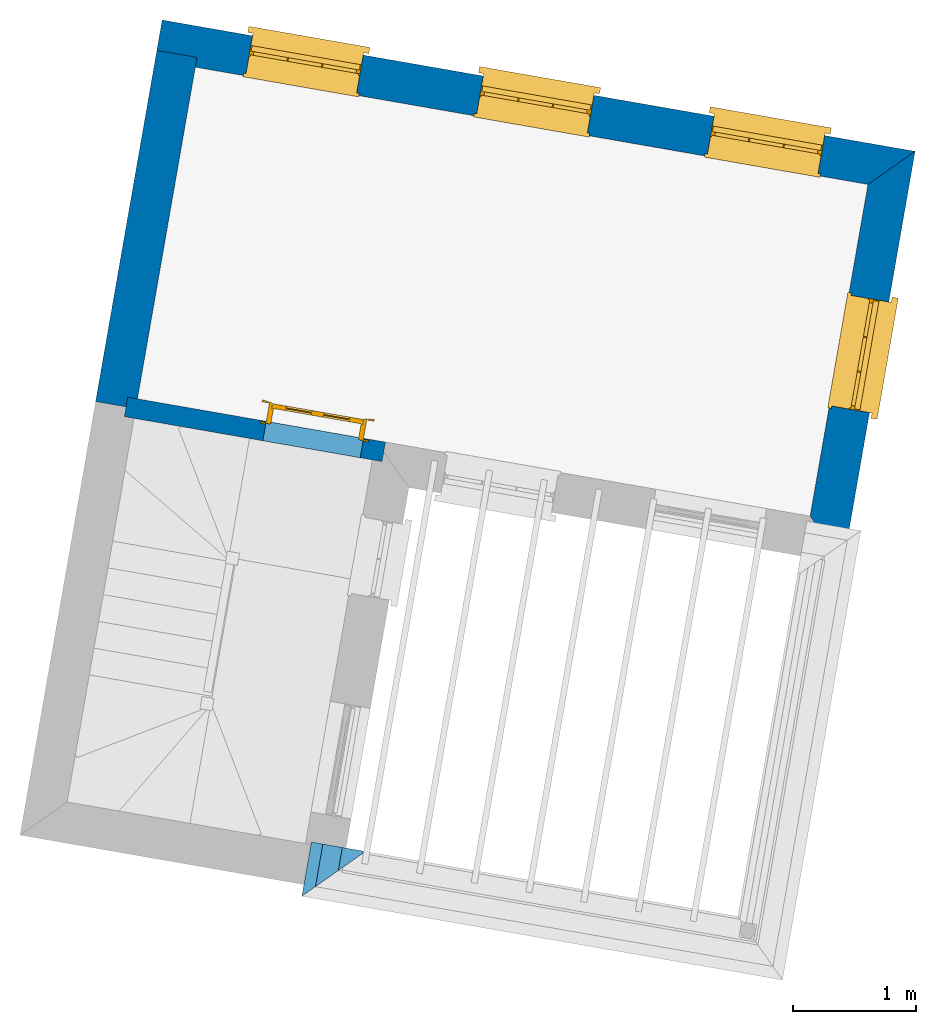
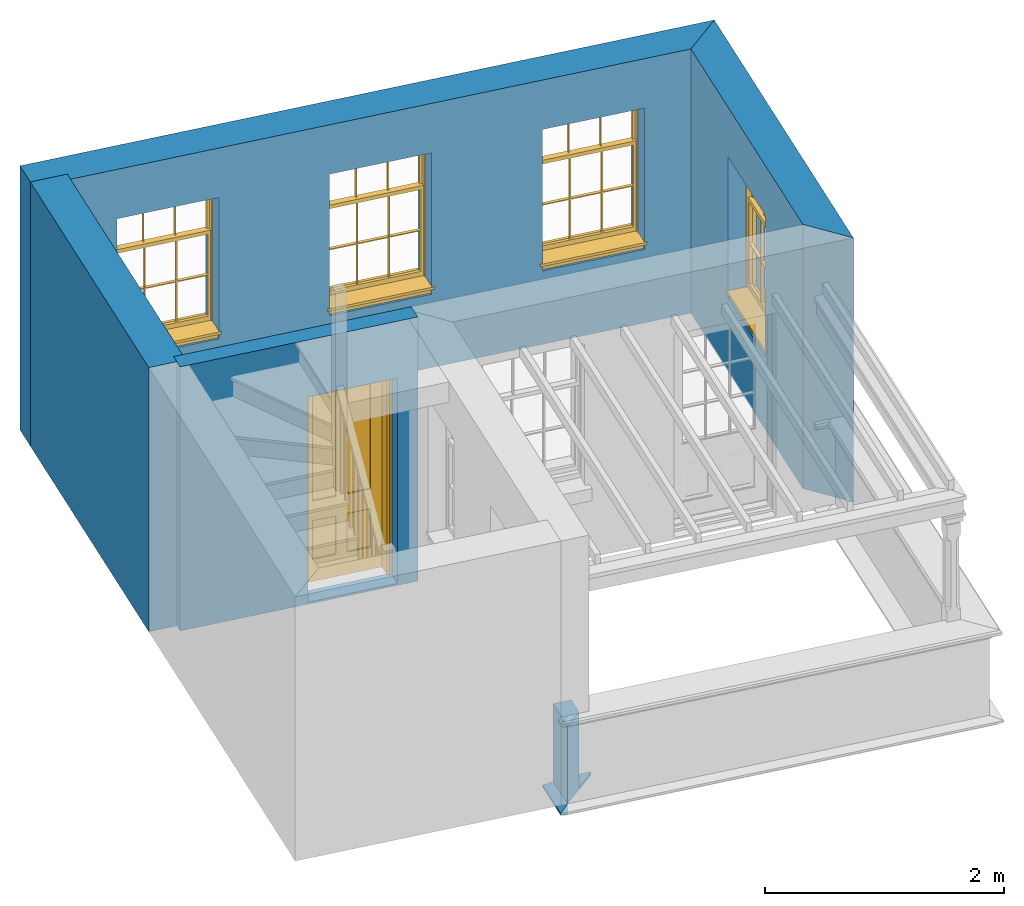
# One storey, part 4 of 6: 6 walls, 4 windows, 1 door, 5 openings.
"""IFC4 building model written with IfcOpenShell, lengths in metres."""

from ifc_helpers import new_model, si_unit, frame, origin, origin_with_axes, place, context, subcontext, project, spatial, polyline, outline, extrude, clip, halfspace, faceted_brep, source, transform, mapped, material, layer, layer_set, layer_usage, material_profile, profile_set, profile_usage, type_object, type_shapes, element, fill, save


model = new_model("IFC4")

# Units and contexts
model_context = context("Model", 3, world=origin_with_axes())
body_context = subcontext(model_context, "Body", "Model", "MODEL_VIEW")
ifc_project = project(units=[si_unit("PLANEANGLEUNIT", "RADIAN"), si_unit("MASSUNIT", "GRAM", prefix="KILO"), si_unit("FORCEUNIT", "NEWTON", prefix="KILO"), si_unit("LENGTHUNIT", "METRE"), si_unit("AREAUNIT", "SQUARE_METRE"), si_unit("VOLUMEUNIT", "CUBIC_METRE")], contexts=[model_context, model_context])

# Sites, building, storey
site_1_placement = place(None, origin_with_axes())
site_1 = spatial("IfcSite", under=ifc_project, at=site_1_placement, Name="Tamar")
site_2_placement = place(site_1_placement, origin_with_axes())
site_2 = spatial("IfcSite", under=site_1, at=site_2_placement, Name="Site plot-27", CompositionType="ELEMENT")
building_placement = place(None, origin_with_axes())
building = spatial("IfcBuilding", under=site_2, at=building_placement, Name="Building plot-27", CompositionType="ELEMENT")
storey_placement = place(None, frame((0.0, 0.0, 29.3), z_axis=(0.0, 0.0, 1.0), x_axis=(1.0, 0.0, 0.0)))
storey = spatial("IfcBuildingStorey", under=building, at=storey_placement, Name="plot-27 1", CompositionType="ELEMENT", Elevation=29.3)

# Wall, opening, window
ifc_material_1 = material(Name="Masonry")
ifc_layer_1 = layer(ifc_material_1, 0.33, ventilated=False)
ifc_layer_set_1 = layer_set([ifc_layer_1], Name="exterior_0.08_0.25")
ifc_layer_usage_1 = layer_usage(ifc_layer_set_1, "AXIS2", "POSITIVE", -0.25)
wall_type_1 = type_object("IfcWallType", Name="exterior_0.08_0.25", PredefinedType="SOLIDWALL", material=ifc_layer_set_1)
wall_1_placement = place(storey_placement, frame((297.19996948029, 271.518143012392, 0.0), z_axis=(0.0, 0.0, 1.0), x_axis=(0.171788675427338, 0.985133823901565, 0.0)))
wall_1 = element("IfcWall", 1, at=wall_1_placement, inside=storey, type_object=wall_type_1, material=ifc_layer_usage_1, Name="exterior", context=body_context, shape_type="SweptSolid", body=[
    extrude(outline(polyline([(0.0800000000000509, 0.0799999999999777), (-0.250000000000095, -0.250000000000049), (3.13690107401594, -0.250000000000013), (2.80690107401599, 0.0799999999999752), (0.0800000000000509, 0.0799999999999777)])), origin_with_axes(), (0.0, 0.0, 1.0), 2.7),
])
opening_1_placement = place(wall_1_placement, frame((0.98845053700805, 0.0, 0.75)))
opening_1 = element("IfcOpeningElement", 2, at=opening_1_placement, cuts=wall_1, Name="My Opening", ObjectType="Opening", context=body_context, shape_type="SweptSolid", body=[
    extrude(outline(polyline([(0.0, -0.269999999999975), (0.909999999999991, -0.269999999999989), (0.910000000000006, 1.09999999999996), (1.50990331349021e-14, 1.09999999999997), (0.0, -0.269999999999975)])), origin_with_axes(), (0.0, 0.0, 1.0), 1.445),
])
window_type = type_object("IfcWindowType", Name="sash_shorter", PartitioningType="DOUBLE_PANEL_HORIZONTAL", PredefinedType="NOTDEFINED")
shared_shape_1 = source(origin(), body_context, "Body", "Brep", [
    faceted_brep([(0.876875, 0.145, 0.999097), (0.876875, 0.145, 1.411875), (0.9, 0.145, 1.435), (0.033125, 0.145, 1.411875), (0.033125, 0.145, 0.999097), (0.01, 0.145, 1.435), (0.033125, 0.115, 1.411875), (0.01, 0.115, 1.435), (0.033125, 0.115, 0.999097), (0.876875, 0.115, 1.411875), (0.876875, 0.115, 0.999097), (0.9, 0.115, 1.435), (0.033125, 0.145, 0.960972), (0.01, 0.145, 0.960972), (0.033125, 0.145, 0.548195), (0.876875, 0.145, 0.960972), (0.876875, 0.145, 0.548195), (0.9, 0.145, 0.960972), (0.876875, 0.145, 0.538195), (0.876875, 0.145, 0.125417), (0.9, 0.145, 0.077167), (0.033125, 0.145, 0.125417), (0.033125, 0.145, 0.538195), (0.01, 0.145, 0.077167), (0.9, 0.115, 0.960972), (0.01, 0.115, 0.960972), (-0.0425, 0.0, 0.01), (-0.0425, -0.05, 0.001667), (0.0, 0.0, 0.01), (0.9525, 0.0, 0.01), (0.91, 0.0, 0.01), (0.9525, -0.05, 0.001667), (-0.02, 0.33, 0.077167), (0.0, 0.33, 0.077167), (-0.02, 0.36, 0.077167), (0.0, 0.19, 0.077167), (0.01, 0.19, 0.077167), (0.91, 0.19, 0.077167), (0.91, 0.33, 0.077167), (0.9, 0.19, 0.077167), (0.93, 0.33, 0.077167), (0.93, 0.36, 0.077167), (0.01, 0.145, 0.999097), (0.01, 0.175, 0.999097), (0.9, 0.145, 0.999097), (0.9, 0.175, 0.999097), (0.876875, 0.175, 0.125417), (0.876875, 0.175, 0.538195), (0.9, 0.175, 0.077167), (0.876875, 0.175, 0.548195), (0.876875, 0.175, 0.960972), (0.033125, 0.175, 0.125417), (0.01, 0.175, 0.077167), (0.033125, 0.175, 0.538195), (0.033125, 0.175, 0.960972), (0.033125, 0.175, 0.548195), (-0.02, 0.33, 0.052167), (-0.02, 0.36, 0.052167), (0.93, 0.36, 0.052167), (0.93, 0.33, 0.052167), (0.91, 0.33, 0.052167), (0.0, 0.33, 0.052167), (0.91, 0.1, 0.026667), (0.0, 0.1, 0.026667), (-0.0425, -0.05, -0.123333), (0.9525, -0.05, -0.123333), (-0.0425, 0.0, -0.123333), (0.9525, 0.0, -0.123333), (0.01, 0.19, 1.435), (0.9, 0.19, 1.435), (0.0, 0.19, 1.445), (0.91, 0.19, 1.445), (0.01, 0.1, 0.077167), (0.9, 0.1, 0.077167), (0.592292, 0.145, 0.125417), (0.592292, 0.175, 0.125417), (0.317708, 0.175, 0.125417), (0.317708, 0.145, 0.125417), (0.592292, 0.145, 0.548195), (0.317708, 0.145, 0.548195), (0.317708, 0.145, 0.538195), (0.592292, 0.145, 0.538195), (0.592292, 0.175, 0.548195), (0.317708, 0.175, 0.548195), (0.602292, 0.175, 0.548195), (0.602292, 0.145, 0.548195), (0.317708, 0.175, 0.538195), (0.307708, 0.175, 0.125417), (0.307708, 0.175, 0.538195), (0.602292, 0.175, 0.538195), (0.602292, 0.175, 0.125417), (0.592292, 0.175, 0.538195), (0.307708, 0.175, 0.548195), (0.317708, 0.175, 0.960972), (0.307708, 0.175, 0.960972), (0.602292, 0.175, 0.960972), (0.592292, 0.175, 0.960972), (0.307708, 0.145, 0.538195), (0.307708, 0.145, 0.125417), (0.307708, 0.145, 0.548195), (0.307708, 0.145, 0.960972), (0.592292, 0.145, 0.960972), (0.317708, 0.145, 0.960972), (0.602292, 0.145, 0.960972), (0.602292, 0.145, 0.538195), (0.602292, 0.145, 0.125417), (0.317708, 0.115, 1.411875), (0.307708, 0.115, 1.411875), (0.307708, 0.115, 0.999097), (0.317708, 0.115, 0.999097), (0.602292, 0.115, 1.411875), (0.592292, 0.115, 1.411875), (0.592292, 0.115, 0.999097), (0.602292, 0.115, 0.999097), (0.317708, 0.145, 0.999097), (0.307708, 0.145, 0.999097), (0.307708, 0.145, 1.411875), (0.317708, 0.145, 1.411875), (0.602292, 0.145, 0.999097), (0.592292, 0.145, 0.999097), (0.592292, 0.145, 1.411875), (0.602292, 0.145, 1.411875), (0.91, 0.1, 1.445), (0.9, 0.1, 1.435), (0.01, 0.1, 1.435), (0.0, 0.1, 1.445), (0.91, 0.0, 0.0), (0.0, 0.0, 0.0), (0.91, 0.33, 0.0), (0.0, 0.33, 0.0)], [[[0, 1, 2]], [[3, 4, 5]], [[6, 7, 8]], [[9, 10, 11]], [[12, 13, 14]], [[15, 16, 17]], [[18, 19, 20]], [[21, 22, 23]], [[24, 15, 17]], [[13, 12, 25]], [[26, 27, 28]], [[29, 30, 31]], [[32, 33, 34]], [[35, 36, 33]], [[37, 38, 39]], [[40, 41, 38]], [[42, 4, 43]], [[44, 45, 0]], [[46, 47, 48]], [[49, 50, 45]], [[51, 52, 53]], [[54, 55, 43]], [[38, 33, 36, 39]], [[41, 34, 33, 38]], [[56, 32, 34, 57]], [[57, 34, 41, 58]], [[58, 41, 40, 59]], [[57, 58, 60, 61]], [[52, 48, 39, 36]], [[62, 63, 28, 30]], [[27, 31, 30, 28]], [[27, 64, 65, 31]], [[66, 67, 65, 64]], [[2, 5, 68, 69]], [[68, 70, 71, 69]], [[20, 23, 72, 73]], [[73, 72, 63, 62]], [[74, 75, 76, 77]], [[78, 79, 80, 81]], [[78, 82, 83, 79]], [[16, 49, 84, 85]], [[86, 76, 87, 88]], [[89, 90, 75, 91]], [[92, 88, 53, 55]], [[82, 91, 86, 83]], [[93, 83, 92, 94]], [[95, 84, 82, 96]], [[89, 84, 49, 47]], [[97, 88, 87, 98]], [[22, 53, 88, 97]], [[81, 91, 75, 74]], [[80, 86, 91, 81]], [[77, 76, 86, 80]], [[99, 92, 55, 14]], [[100, 94, 92, 99]], [[101, 96, 82, 78]], [[79, 83, 93, 102]], [[85, 84, 95, 103]], [[104, 89, 47, 18]], [[105, 90, 89, 104]], [[104, 18, 16, 85]], [[80, 97, 98, 77]], [[104, 81, 74, 105]], [[103, 101, 78, 85]], [[99, 14, 22, 97]], [[102, 100, 99, 79]], [[106, 107, 108, 109]], [[110, 111, 112, 113]], [[114, 115, 116, 117]], [[118, 119, 120, 121]], [[107, 116, 115, 108]], [[111, 120, 119, 112]], [[109, 114, 117, 106]], [[113, 118, 121, 110]], [[85, 78, 81, 104]], [[84, 89, 91, 82]], [[83, 86, 88, 92]], [[79, 99, 97, 80]], [[109, 112, 119, 114]], [[102, 93, 96, 101]], [[106, 117, 120, 111]], [[98, 87, 51, 21]], [[6, 3, 116, 107]], [[110, 121, 1, 9]], [[19, 46, 90, 105]], [[26, 66, 64, 27]], [[29, 31, 65, 67]], [[25, 24, 112, 109]], [[11, 7, 106, 111]], [[75, 48, 52, 76]], [[43, 45, 96, 93]], [[45, 43, 114, 119]], [[5, 2, 120, 117]], [[24, 25, 102, 101]], [[42, 5, 4]], [[2, 44, 0]], [[49, 45, 48, 47]], [[52, 43, 55, 53]], [[14, 13, 23, 22]], [[20, 17, 16, 18]], [[24, 11, 10]], [[25, 8, 7]], [[8, 4, 3, 6]], [[9, 1, 0, 10]], [[15, 50, 49, 16]], [[18, 47, 46, 19]], [[21, 51, 53, 22]], [[14, 55, 54, 12]], [[44, 2, 69, 45]], [[68, 5, 42, 43]], [[36, 35, 70, 68]], [[39, 69, 71, 37]], [[62, 122, 123, 73]], [[63, 72, 124, 125]], [[8, 108, 115, 4]], [[113, 10, 0, 118]], [[94, 100, 12, 54]], [[17, 20, 73, 24]], [[72, 23, 13, 25]], [[52, 36, 68, 43]], [[69, 39, 48, 45]], [[11, 24, 73, 123]], [[7, 124, 72, 25]], [[23, 77, 98]], [[98, 21, 23]], [[105, 74, 20]], [[20, 19, 105]], [[20, 74, 77, 23]], [[113, 112, 24]], [[24, 10, 113]], [[25, 109, 108]], [[108, 8, 25]], [[110, 9, 11]], [[11, 111, 110]], [[7, 6, 107]], [[107, 106, 7]], [[5, 117, 116]], [[116, 3, 5]], [[121, 120, 2]], [[2, 1, 121]], [[11, 123, 124, 7]], [[122, 125, 124, 123]], [[43, 93, 94]], [[94, 54, 43]], [[96, 45, 95]], [[50, 95, 45]], [[15, 103, 95, 50]], [[48, 75, 90]], [[90, 46, 48]], [[87, 76, 52]], [[52, 51, 87]], [[103, 15, 24]], [[24, 101, 103]], [[100, 102, 25]], [[25, 12, 100]], [[115, 114, 43]], [[43, 4, 115]], [[118, 0, 45]], [[45, 119, 118]], [[71, 70, 125, 122]], [[70, 35, 63, 125]], [[122, 62, 37, 71]], [[126, 67, 66, 127]], [[60, 58, 59]], [[38, 60, 59, 40]], [[61, 56, 57]], [[32, 56, 61, 33]], [[61, 60, 128, 129]], [[62, 60, 38, 37]], [[126, 128, 60, 62]], [[33, 61, 63, 35]], [[61, 129, 127, 63]], [[128, 126, 127, 129]], [[28, 127, 66, 26]], [[63, 127, 28]], [[29, 67, 126, 30]], [[30, 126, 62]]]),
])
type_shapes(window_type, [shared_shape_1])
window_1_placement = place(storey_placement, frame((297.635760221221, 272.445516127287, 0.75), z_axis=(0.0, 0.0, 1.0), x_axis=(0.15632769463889, 0.896471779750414, 0.0)))
window_1 = element("IfcWindow", 3, at=window_1_placement, inside=storey, type_object=window_type, Name="bedroom outside window", OverallHeight=1.445, OverallWidth=0.91, context=body_context, shape_type="MappedRepresentation", body=[
    mapped(shared_shape_1, transform((0.0, 0.0, 0.0), scale=1.0)),
])
fill(opening_1, window_1)

# Wall, openings, windows
wall_2_placement = place(storey_placement, frame((297.695906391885, 274.362126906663, 0.0), z_axis=(0.0, 0.0, 1.0), x_axis=(-0.985133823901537, 0.171788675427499, 0.0)))
wall_2 = element("IfcWall", 4, at=wall_2_placement, inside=storey, type_object=wall_type_1, material=ifc_layer_usage_1, Name="exterior", context=body_context, shape_type="SweptSolid", body=[
    extrude(outline(polyline([(0.0799999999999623, 0.0800000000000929), (-0.249999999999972, -0.249999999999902), (5.93968341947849, -0.25000000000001), (5.9396834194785, 0.0800000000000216), (0.0799999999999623, 0.0800000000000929)])), origin_with_axes(), (0.0, 0.0, 1.0), 2.7),
])
opening_2_placement = place(wall_2_placement, frame((0.493280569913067, 0.0, 0.75)))
opening_2 = element("IfcOpeningElement", 5, at=opening_2_placement, cuts=wall_2, Name="My Opening", ObjectType="Opening", context=body_context, shape_type="SweptSolid", body=[
    extrude(outline(polyline([(0.0, -0.269999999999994), (0.910000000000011, -0.269999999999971), (0.909999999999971, 1.10000000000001), (-4.00790511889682e-14, 1.09999999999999), (0.0, -0.269999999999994)])), origin_with_axes(), (0.0, 0.0, 1.0), 1.445),
])
opening_3_placement = place(wall_2_placement, frame((2.38984170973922, 0.0, 0.75)))
opening_3 = element("IfcOpeningElement", 6, at=opening_3_placement, cuts=wall_2, Name="My Opening", ObjectType="Opening", context=body_context, shape_type="SweptSolid", body=[
    extrude(outline(polyline([(0.0, -0.269999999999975), (0.91000000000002, -0.270000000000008), (0.90999999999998, 1.09999999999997), (-3.99680288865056e-14, 1.1), (0.0, -0.269999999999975)])), origin_with_axes(), (0.0, 0.0, 1.0), 1.445),
])
opening_4_placement = place(wall_2_placement, frame((4.28640284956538, 0.0, 0.75)))
opening_4 = element("IfcOpeningElement", 7, at=opening_4_placement, cuts=wall_2, Name="My Opening", ObjectType="Opening", context=body_context, shape_type="SweptSolid", body=[
    extrude(outline(polyline([(0.0, -0.270000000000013), (0.910000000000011, -0.26999999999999), (0.909999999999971, 1.09999999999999), (-3.99680288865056e-14, 1.09999999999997), (0.0, -0.270000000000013)])), origin_with_axes(), (0.0, 0.0, 1.0), 1.445),
])
window_2_placement = place(storey_placement, frame((297.256341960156, 274.712853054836, 0.75), z_axis=(0.0, 0.0, 1.0), x_axis=(-0.896471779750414, 0.156327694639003, 0.0)))
window_2 = element("IfcWindow", 8, at=window_2_placement, inside=storey, type_object=window_type, Name="bedroom outside window", OverallHeight=1.445, OverallWidth=0.91, context=body_context, shape_type="MappedRepresentation", body=[
    mapped(shared_shape_1, transform((0.0, 0.0, 0.0), scale=1.0)),
])
fill(opening_2, window_2)
window_3_placement = place(storey_placement, frame((295.387975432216, 275.038660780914, 0.75), z_axis=(0.0, 0.0, 1.0), x_axis=(-0.896471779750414, 0.15632769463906, 0.0)))
window_3 = element("IfcWindow", 9, at=window_3_placement, inside=storey, type_object=window_type, Name="bedroom outside window", OverallHeight=1.445, OverallWidth=0.91, context=body_context, shape_type="MappedRepresentation", body=[
    mapped(shared_shape_1, transform((0.0, 0.0, 0.0), scale=1.0)),
])
fill(opening_3, window_3)
window_4_placement = place(storey_placement, frame((293.519608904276, 275.364468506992, 0.75), z_axis=(0.0, 0.0, 1.0), x_axis=(-0.896471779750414, 0.156327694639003, 0.0)))
window_4 = element("IfcWindow", 10, at=window_4_placement, inside=storey, type_object=window_type, Name="bedroom outside window", OverallHeight=1.445, OverallWidth=0.91, context=body_context, shape_type="MappedRepresentation", body=[
    mapped(shared_shape_1, transform((0.0, 0.0, 0.0), scale=1.0)),
])
fill(opening_4, window_4)

# Wall
ifc_material_2 = material(Name="Masonry")
ifc_layer_2 = layer(ifc_material_2, 0.33, ventilated=False)
ifc_layer_set_2 = layer_set([ifc_layer_2], Name="party_0.08_0.25")
ifc_layer_usage_2 = layer_usage(ifc_layer_set_2, "AXIS2", "POSITIVE", -0.25)
wall_type_2 = type_object("IfcWallType", Name="party_0.08_0.25", PredefinedType="SOLIDWALL", material=ifc_layer_set_2)
wall_3_placement = place(storey_placement, frame((292.090806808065, 275.339550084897, 0.0), z_axis=(0.0, 0.0, 1.0), x_axis=(-0.171788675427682, -0.985133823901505, 0.0)))
element("IfcWall", 11, at=wall_3_placement, inside=storey, type_object=wall_type_2, material=ifc_layer_usage_2, Name="party", context=body_context, shape_type="SweptSolid", body=[
    extrude(outline(polyline([(8.653925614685e-15, 0.0800000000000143), (-1.53900414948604e-15, -0.250000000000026), (2.88690107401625, -0.250000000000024), (2.88690107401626, 0.0800000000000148), (8.653925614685e-15, 0.0800000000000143)])), origin_with_axes(), (0.0, 0.0, 1.0), 2.7),
])

# Wall, opening, door
ifc_material_3 = material(Name="Masonry")
ifc_layer_3 = layer(ifc_material_3, 0.16, ventilated=False)
ifc_layer_set_3 = layer_set([ifc_layer_3], Name="interior_0.08_0.08")
ifc_layer_usage_3 = layer_usage(ifc_layer_set_3, "AXIS2", "POSITIVE", -0.08)
wall_type_3 = type_object("IfcWallType", Name="interior_0.08_0.08", PredefinedType="SOLIDWALL", material=ifc_layer_set_3)
wall_4_placement = place(storey_placement, frame((291.594869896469, 272.495566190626, 0.0), z_axis=(0.0, 0.0, 1.0), x_axis=(0.985133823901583, -0.17178867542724, 0.0)))
wall_4 = element("IfcWall", 12, at=wall_4_placement, inside=storey, type_object=wall_type_3, material=ifc_layer_usage_3, Name="interior", context=body_context, shape_type="SweptSolid", body=[
    extrude(outline(polyline([(-1.14348394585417e-14, 0.0800000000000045), (1.14250422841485e-14, -0.0800000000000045), (2.11883518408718, -0.0800000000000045), (2.11883518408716, 0.0800000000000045), (-1.14348394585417e-14, 0.0800000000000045)])), origin_with_axes(), (0.0, 0.0, 1.0), 2.7),
])
opening_5_placement = place(wall_4_placement, frame((1.13883518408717, 0.0, 0.0199999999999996)))
opening_5 = element("IfcOpeningElement", 13, at=opening_5_placement, cuts=wall_4, Name="My Opening", ObjectType="Opening", context=body_context, shape_type="SweptSolid", body=[
    extrude(outline(polyline([(0.0, -0.0999999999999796), (0.800000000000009, -0.099999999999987), (0.800000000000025, 1.1), (1.59872115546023e-14, 1.10000000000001), (0.0, -0.0999999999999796)])), origin_with_axes(), (0.0, 0.0, 1.0), 2.1),
])
door_type = type_object("IfcDoorType", Name="door_inside", OperationType="SINGLE_SWING_LEFT", PredefinedType="NOTDEFINED")
shared_shape_2 = source(origin(), body_context, "Body", "Brep", [
    faceted_brep([(0.773, 0.33, 1.895), (0.66, 0.33, 1.895), (0.66, 0.33, 2.073), (0.773, 0.33, 2.073), (0.773, 0.33, 0.82), (0.66, 0.33, 0.82), (0.45, 0.33, 1.895), (0.45, 0.33, 2.073), (0.773, 0.33, 0.62), (0.66, 0.33, 0.62), (0.66, 0.315, 0.82), (0.66, 0.315, 1.895), (0.45, 0.315, 1.895), (0.35, 0.33, 1.895), (0.35, 0.33, 2.073), (0.773, 0.33, 0.225), (0.66, 0.33, 0.225), (0.45, 0.33, 0.62), (0.45, 0.33, 0.82), (0.45, 0.315, 0.82), (0.35, 0.33, 0.82), (0.14, 0.33, 2.073), (0.14, 0.33, 1.895), (0.773, 0.33, 0.0), (0.66, 0.33, 0.0), (0.66, 0.315, 0.225), (0.66, 0.315, 0.62), (0.45, 0.315, 0.62), (0.35, 0.33, 0.62), (0.35, 0.315, 0.82), (0.35, 0.315, 1.895), (0.14, 0.315, 1.895), (0.027, 0.33, 2.073), (0.027, 0.33, 1.895), (0.773, 0.292, 0.0), (0.66, 0.292, 0.0), (0.45, 0.33, 0.0), (0.45, 0.33, 0.225), (0.45, 0.315, 0.225), (0.35, 0.33, 0.225), (0.14, 0.33, 0.82), (0.14, 0.33, 0.62), (0.14, 0.315, 0.82), (0.027, 0.33, 0.82), (0.773, 0.292, 0.225), (0.66, 0.292, 0.225), (0.45, 0.292, 0.0), (0.35, 0.33, 0.0), (0.35, 0.315, 0.225), (0.35, 0.315, 0.62), (0.14, 0.315, 0.62), (0.027, 0.33, 0.62), (0.773, 0.292, 0.62), (0.66, 0.292, 0.62), (0.45, 0.292, 0.225), (0.35, 0.292, 0.0), (0.14, 0.33, 0.225), (0.14, 0.33, 0.0), (0.14, 0.315, 0.225), (0.027, 0.33, 0.225), (0.773, 0.292, 0.82), (0.66, 0.292, 0.82), (0.66, 0.307, 0.62), (0.66, 0.307, 0.225), (0.45, 0.307, 0.225), (0.35, 0.292, 0.225), (0.14, 0.292, 0.0), (0.027, 0.33, 0.0), (0.773, 0.292, 1.895), (0.66, 0.292, 1.895), (0.45, 0.292, 0.62), (0.45, 0.292, 0.82), (0.45, 0.307, 0.62), (0.35, 0.292, 0.62), (0.14, 0.292, 0.225), (0.027, 0.292, 0.0), (0.773, 0.292, 2.073), (0.66, 0.292, 2.073), (0.66, 0.307, 1.895), (0.66, 0.307, 0.82), (0.45, 0.307, 0.82), (0.35, 0.292, 0.82), (0.35, 0.307, 0.62), (0.35, 0.307, 0.225), (0.14, 0.307, 0.225), (0.027, 0.292, 0.225), (0.45, 0.292, 1.895), (0.45, 0.292, 2.073), (0.45, 0.307, 1.895), (0.35, 0.292, 1.895), (0.14, 0.292, 0.82), (0.14, 0.292, 0.62), (0.14, 0.307, 0.62), (0.027, 0.292, 0.62), (0.35, 0.292, 2.073), (0.35, 0.307, 1.895), (0.35, 0.307, 0.82), (0.14, 0.307, 0.82), (0.027, 0.292, 0.82), (0.14, 0.292, 2.073), (0.14, 0.292, 1.895), (0.14, 0.307, 1.895), (0.027, 0.292, 1.895), (0.027, 0.292, 2.073), (0.02, 0.335, 0.0), (0.005, 0.34, 0.0), (0.005, 0.34, 2.095), (0.02, 0.335, 2.08), (0.02, 0.33, 0.0), (0.0, 0.335, 0.0), (0.0, 0.335, 2.1), (0.795, 0.34, 2.095), (0.78, 0.335, 2.08), (0.02, 0.33, 2.08), (0.0, 0.33, 0.0), (-0.032, 0.345, 0.0), (-0.032, 0.345, 2.132), (0.8, 0.335, 2.1), (0.795, 0.34, 0.0), (0.78, 0.335, 0.0), (0.78, 0.33, 2.08), (0.04, 0.29, 0.0), (0.025, 0.29, 0.0), (0.025, 0.29, 2.075), (0.04, 0.29, 2.06), (-0.04, 0.34, 0.0), (-0.04, 0.34, 2.14), (0.832, 0.345, 2.132), (0.8, 0.335, 0.0), (0.78, 0.33, 0.0), (0.8, 0.33, 0.0), (0.86, 0.33, 0.0), (0.86, 0.33, 2.16), (0.8, 0.33, 2.1), (-0.06, 0.33, 2.16), (0.0, 0.33, 2.1), (-0.06, 0.33, 0.0), (-0.04, 0.345, 0.0), (-0.04, 0.345, 2.14), (0.84, 0.34, 2.14), (0.832, 0.345, 0.0), (0.84, 0.34, 0.0), (0.86, 0.345, 0.0), (0.86, 0.345, 2.16), (-0.06, 0.345, 2.16), (-0.06, 0.345, 0.0), (0.84, 0.345, 0.0), (0.84, 0.345, 2.14), (-0.025, 0.155, 0.0), (-0.025, 0.16, 0.0), (-0.025, 0.16, 2.125), (-0.025, 0.155, 2.125), (-0.017, 0.155, 0.0), (-0.017, 0.155, 2.117), (0.825, 0.16, 2.125), (0.825, 0.155, 2.125), (0.825, 0.155, 0.0), (0.845, 0.155, 0.0), (-0.045, 0.155, 2.145), (-0.045, 0.155, 0.0), (0.845, 0.155, 2.145), (0.015, 0.165, 0.0), (0.015, 0.165, 2.085), (0.817, 0.155, 2.117), (0.825, 0.16, 0.0), (0.845, 0.17, 0.0), (0.845, 0.17, 2.145), (-0.045, 0.17, 2.145), (-0.045, 0.17, 0.0), (0.02, 0.16, 0.0), (0.02, 0.16, 2.08), (0.785, 0.165, 2.085), (0.817, 0.155, 0.0), (0.8, 0.17, 0.0), (0.8, 0.17, 2.1), (0.0, 0.17, 2.1), (0.0, 0.17, 0.0), (0.035, 0.165, 0.0), (0.035, 0.165, 2.065), (0.78, 0.16, 2.08), (0.785, 0.165, 0.0), (0.775, 0.29, 2.075), (0.76, 0.29, 2.06), (0.035, 0.17, 2.065), (0.035, 0.17, 0.0), (0.765, 0.165, 2.065), (0.78, 0.16, 0.0), (0.765, 0.17, 0.0), (0.765, 0.17, 2.065), (0.765, 0.165, 0.0), (0.04, 0.17, 2.06), (0.04, 0.17, 0.0), (0.76, 0.17, 2.06), (0.76, 0.17, 0.0), (0.76, 0.29, 0.0), (0.775, 0.29, 0.0), (0.025, 0.33, 0.0), (0.025, 0.33, 2.075), (0.775, 0.33, 0.0), (0.775, 0.33, 2.075)], [[[0, 1, 2, 3]], [[1, 0, 4, 5]], [[1, 6, 7, 2]], [[8, 9, 5, 4]], [[1, 5, 10, 11]], [[6, 1, 11, 12]], [[6, 13, 14, 7]], [[15, 16, 9, 8]], [[9, 17, 18, 5]], [[5, 18, 19, 10]], [[10, 19, 12, 11]], [[18, 6, 12, 19]], [[18, 20, 13, 6]], [[21, 14, 13, 22]], [[23, 24, 16, 15]], [[9, 16, 25, 26]], [[17, 9, 26, 27]], [[17, 28, 20, 18]], [[13, 20, 29, 30]], [[22, 13, 30, 31]], [[32, 21, 22, 33]], [[34, 35, 24, 23]], [[24, 36, 37, 16]], [[16, 37, 38, 25]], [[25, 38, 27, 26]], [[37, 17, 27, 38]], [[37, 39, 28, 17]], [[40, 20, 28, 41]], [[20, 40, 42, 29]], [[31, 30, 29, 42]], [[40, 22, 31, 42]], [[33, 22, 40, 43]], [[35, 34, 44, 45]], [[35, 46, 36, 24]], [[36, 47, 39, 37]], [[28, 39, 48, 49]], [[41, 28, 49, 50]], [[43, 40, 41, 51]], [[45, 44, 52, 53]], [[46, 35, 45, 54]], [[46, 55, 47, 36]], [[56, 39, 47, 57]], [[39, 56, 58, 48]], [[50, 49, 48, 58]], [[56, 41, 50, 58]], [[51, 41, 56, 59]], [[53, 52, 60, 61]], [[45, 53, 62, 63]], [[54, 45, 63, 64]], [[55, 46, 54, 65]], [[55, 66, 57, 47]], [[59, 56, 57, 67]], [[61, 60, 68, 69]], [[70, 53, 61, 71]], [[53, 70, 72, 62]], [[72, 64, 63, 62]], [[70, 54, 64, 72]], [[65, 54, 70, 73]], [[65, 74, 66, 55]], [[67, 57, 66, 75]], [[69, 68, 76, 77]], [[61, 69, 78, 79]], [[71, 61, 79, 80]], [[73, 70, 71, 81]], [[65, 73, 82, 83]], [[74, 65, 83, 84]], [[74, 85, 75, 66]], [[86, 69, 77, 87]], [[69, 86, 88, 78]], [[88, 80, 79, 78]], [[86, 71, 80, 88]], [[81, 71, 86, 89]], [[73, 81, 90, 91]], [[73, 91, 92, 82]], [[83, 82, 92, 84]], [[91, 74, 84, 92]], [[91, 93, 85, 74]], [[89, 86, 87, 94]], [[81, 89, 95, 96]], [[90, 81, 96, 97]], [[90, 98, 93, 91]], [[94, 99, 100, 89]], [[89, 100, 101, 95]], [[101, 97, 96, 95]], [[100, 90, 97, 101]], [[100, 102, 98, 90]], [[99, 103, 102, 100]], [[32, 103, 99, 21]], [[102, 103, 32, 33]], [[98, 102, 33, 43]], [[21, 99, 94, 14]], [[94, 87, 7, 14]], [[7, 87, 77, 2]], [[76, 3, 2, 77]], [[43, 51, 93, 98]], [[51, 59, 85, 93]], [[67, 75, 85, 59]], [[34, 23, 15, 44]], [[44, 15, 8, 52]], [[52, 8, 4, 60]], [[0, 68, 60, 4]], [[0, 3, 76, 68]], [[104, 105, 106, 107]], [[104, 108, 109, 105]], [[105, 109, 110, 106]], [[107, 106, 111, 112]], [[107, 113, 108, 104]], [[114, 109, 108]], [[109, 115, 116, 110]], [[106, 110, 117, 111]], [[112, 111, 118, 119]], [[113, 107, 112, 120]], [[121, 122, 123, 124]], [[115, 109, 114, 125]], [[115, 125, 126, 116]], [[110, 116, 127, 117]], [[111, 117, 128, 118]], [[118, 128, 129, 119]], [[120, 112, 119, 129]], [[130, 129, 128]], [[130, 131, 132, 133]], [[133, 132, 134, 135]], [[135, 134, 136, 114]], [[136, 125, 114]], [[125, 137, 138, 126]], [[116, 126, 139, 127]], [[117, 127, 140, 128]], [[141, 130, 128, 140]], [[131, 130, 141]], [[131, 142, 143, 132]], [[132, 143, 144, 134]], [[134, 144, 145, 136]], [[137, 125, 136, 145]], [[143, 142, 146]], [[143, 146, 147]], [[137, 145, 144]], [[143, 147, 138]], [[138, 137, 144]], [[143, 138, 144]], [[126, 138, 147, 139]], [[127, 139, 141, 140]], [[142, 131, 141, 146]], [[139, 147, 146, 141]], [[148, 149, 150, 151]], [[149, 152, 153, 150]], [[151, 150, 154, 155]], [[155, 156, 157]], [[158, 159, 148]], [[158, 148, 151]], [[155, 157, 160]], [[158, 151, 155]], [[155, 160, 158]], [[152, 161, 162, 153]], [[150, 153, 163, 154]], [[155, 154, 164, 156]], [[156, 164, 165, 157]], [[157, 165, 166, 160]], [[160, 166, 167, 158]], [[158, 167, 168, 159]], [[161, 169, 170, 162]], [[153, 162, 171, 163]], [[154, 163, 172, 164]], [[165, 164, 173]], [[165, 173, 174, 166]], [[166, 174, 175, 167]], [[167, 175, 176, 168]], [[169, 177, 178, 170]], [[162, 170, 179, 171]], [[163, 171, 180, 172]], [[172, 180, 173, 164]], [[124, 123, 181, 182]], [[183, 178, 177, 184]], [[170, 178, 185, 179]], [[171, 179, 186, 180]], [[187, 173, 180]], [[185, 188, 187, 189]], [[188, 185, 178, 183]], [[179, 185, 189, 186]], [[189, 187, 180, 186]], [[190, 183, 184, 191]], [[192, 188, 183, 190]], [[191, 184, 122, 121]], [[124, 190, 191, 121]], [[193, 187, 188, 192]], [[182, 192, 190, 124]], [[184, 176, 122]], [[194, 195, 187, 193]], [[192, 182, 194, 193]], [[161, 176, 184]], [[114, 108, 122, 176]], [[173, 187, 195]], [[152, 149, 176, 161]], [[169, 161, 184, 177]], [[196, 122, 108]], [[176, 175, 135, 114]], [[173, 195, 129, 130]], [[176, 149, 168]], [[123, 122, 196, 197]], [[196, 108, 113, 197]], [[175, 174, 133, 135]], [[198, 129, 195]], [[133, 174, 173, 130]], [[159, 168, 149, 148]], [[181, 123, 197, 199]], [[197, 113, 120, 199]], [[199, 120, 129, 198]], [[195, 181, 199, 198]], [[195, 194, 182, 181]]]),
])
type_shapes(door_type, [shared_shape_2])
door_placement = place(storey_placement, frame((292.69959608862, 272.201413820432, 0.0199999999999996), z_axis=(0.0, 0.0, 1.0), x_axis=(0.788107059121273, -0.137430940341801, 0.0)))
door = element("IfcDoor", 14, at=door_placement, inside=storey, type_object=door_type, Name="bedroom inside door", OverallHeight=2.1, OverallWidth=0.8, context=body_context, shape_type="MappedRepresentation", body=[
    mapped(shared_shape_2, transform((0.0, 0.0, 0.0), scale=1.0)),
])
fill(opening_5, door)

# Walls
ifc_material_profile_1 = material_profile(None, outline(polyline([(0.25, 0.0), (0.25, 0.795), (0.09, 0.795), (0.09, 0.02), (-0.08, 0.02), (-0.08, 0.0), (0.25, 0.0)])))
ifc_profile_set_1 = profile_set([ifc_material_profile_1])
ifc_profile_usage_1 = profile_usage(ifc_profile_set_1)
wall_type_4 = type_object("IfcWallType", Name="parapet_0", PredefinedType="PARAPET", material=ifc_profile_set_1)
wall_5_placement = place(storey_placement, frame((293.246538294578, 267.828664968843, 0.0), z_axis=(0.171788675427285, 0.985133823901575, 0.0), x_axis=(-0.985133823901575, 0.171788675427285, 0.0)))
element("IfcWall", 15, at=wall_5_placement, inside=storey, type_object=wall_type_4, material=ifc_profile_usage_1, Name="parapet_0", context=body_context, shape_type="Clipping", body=[
    clip(clip(extrude(outline(polyline([(0.25, 0.0), (0.25, 0.795), (0.09, 0.795), (0.09, 0.02), (-0.08, 0.02), (-0.08, 0.0), (0.25, 0.0)])), origin_with_axes(), (0.0, 0.0, 1.0), 2.09999999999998), halfspace(frame((0.0, 0.0, 1.09999999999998), z_axis=(2.65841202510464e-14, 0.0, -1.0), x_axis=(0.0, 1.0, 0.0)), True)), halfspace(frame((0.0, 0.0, 1.0), z_axis=(-0.707106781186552, 0.0, -0.707106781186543), x_axis=(0.0, 1.0, 0.0)), False)),
])
ifc_material_profile_2 = material_profile(None, outline(polyline([(0.25, -0.1), (0.265, -0.1), (0.265, -0.085), (0.278, -0.084), (0.289, -0.081), (0.301, -0.074), (0.309, -0.065), (0.315, -0.055), (0.324, -0.044), (0.334, -0.038), (0.345, -0.035), (0.345, -0.015), (0.25, 0.0), (0.25, -0.1)])))
ifc_profile_set_2 = profile_set([ifc_material_profile_2])
ifc_profile_usage_2 = profile_usage(ifc_profile_set_2)
wall_type_5 = type_object("IfcWallType", Name="parapet_2", PredefinedType="PARAPET", material=ifc_profile_set_2)
wall_6_placement = place(storey_placement, frame((293.246538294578, 267.828664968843, 0.0), z_axis=(0.171788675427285, 0.985133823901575, 0.0), x_axis=(-0.985133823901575, 0.171788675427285, 0.0)))
element("IfcWall", 16, at=wall_6_placement, inside=storey, type_object=wall_type_5, material=ifc_profile_usage_2, Name="parapet_2", context=body_context, shape_type="Clipping", body=[
    clip(clip(extrude(outline(polyline([(0.25, -0.1), (0.265, -0.1), (0.265, -0.085), (0.278, -0.084), (0.289, -0.081), (0.301, -0.074), (0.309, -0.065), (0.315, -0.055), (0.324, -0.044), (0.334, -0.038), (0.345, -0.035), (0.345, -0.015), (0.25, 0.0), (0.25, -0.1)])), origin_with_axes(), (0.0, 0.0, 1.0), 2.09999999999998), halfspace(frame((0.0, 0.0, 1.09999999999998), z_axis=(2.65841202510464e-14, 0.0, -1.0), x_axis=(0.0, 1.0, 0.0)), True)), halfspace(frame((0.0, 0.0, 1.0), z_axis=(-0.707106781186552, 0.0, -0.707106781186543), x_axis=(0.0, 1.0, 0.0)), False)),
])

save(model, "model.ifc")
